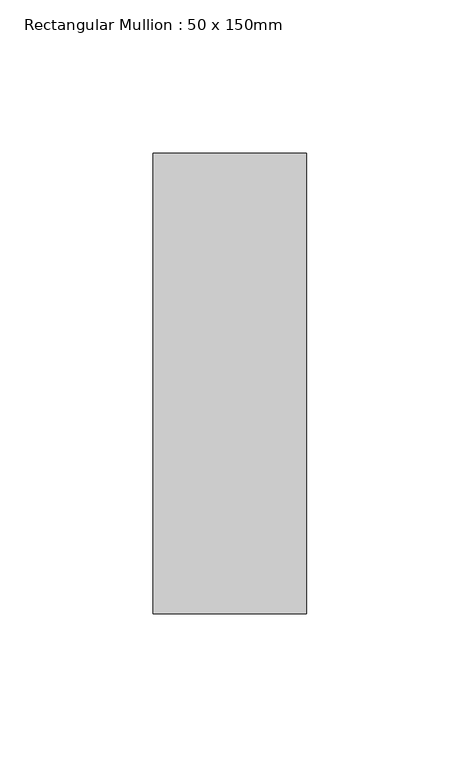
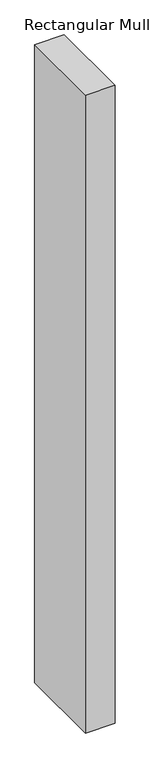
"""IFC4 building model written with IfcOpenShell, lengths in millimetres: member geometry, Rectangular Mullion : 50 x 150mm."""

from ifc_helpers import new_model, si_unit, frame, origin, place, context, project, spatial, polyline, outline, extrude, source, transform, mapped, element, save


def rectangular_mullion_50_x_150mm_9277cc62(model_context):
    return source(origin(), model_context, "Body", "SweptSolid", [
        extrude(outline(polyline([(0.0, 75.0), (0.0, -75.0), (-50.0, -75.0), (-50.0, 75.0), (0.0, 75.0)])), frame((0.0, 0.0, -1146.975), z_axis=(0.0, 0.0, 1.0), x_axis=(1.0, 0.0, 0.0)), (0.0, 0.0, 1.0), 1146.975),
    ])


if __name__ == "__main__":
    model = new_model("IFC4")
    model_context = context("Model", 3, world=origin())
    ifc_project = project(units=[si_unit("LENGTHUNIT", "METRE", prefix="MILLI")], contexts=[model_context])
    site = spatial("IfcSite", under=ifc_project)
    building = spatial("IfcBuilding", under=site)
    placement = place(None, origin())
    rectangular_mullion_50_x_150mm_shape = rectangular_mullion_50_x_150mm_9277cc62(model_context)
    element("IfcMember", 1, ObjectType="Rectangular Mullion : 50 x 150mm", at=placement, inside=building, context=model_context, shape_type="MappedRepresentation", body=[
        mapped(rectangular_mullion_50_x_150mm_shape, transform((0.0, 0.0, 0.0), x_axis=(1.0, 0.0, 0.0), y_axis=(0.0, 1.0, 0.0), z_axis=(0.0, 0.0, 1.0))),
    ])
    save(model, "model.ifc")
